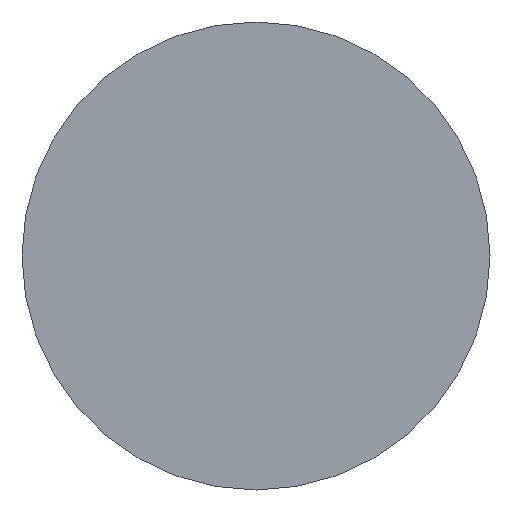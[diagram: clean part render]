
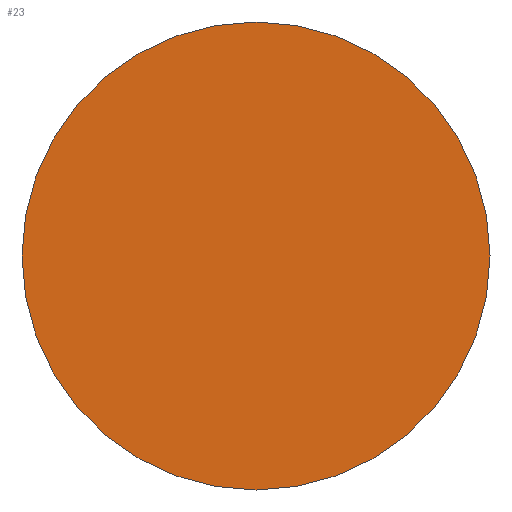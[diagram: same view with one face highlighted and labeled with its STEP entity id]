
A CAD part, left-side view. The second image highlights one B-rep face of the part: STEP entity #23.
In plain terms, the highlighted planar face has unit normal (-1, 0, 0).
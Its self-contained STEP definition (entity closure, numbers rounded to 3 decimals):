
#6 = AXIS2_PLACEMENT_3D ( 'NONE', #59, #43, #136 ) ;
#23 = ADVANCED_FACE ( 'NONE', ( #121 ), #169, .T. ) ;
#24 = ORIENTED_EDGE ( 'NONE', *, *, #212, .F. ) ;
#37 = VERTEX_POINT ( 'NONE', #244 ) ;
#43 = DIRECTION ( 'NONE',  ( -1., 0., 0. ) ) ;
#48 = CARTESIAN_POINT ( 'NONE',  ( 0., 6., 0. ) ) ;
#57 = CIRCLE ( 'NONE', #139, 6. ) ;
#59 = CARTESIAN_POINT ( 'NONE',  ( 0., 0., 0. ) ) ;
#82 = DIRECTION ( 'NONE',  ( 1., 0., 0. ) ) ;
#117 = CIRCLE ( 'NONE', #200, 6. ) ;
#121 = FACE_OUTER_BOUND ( 'NONE', #242, .T. ) ;
#129 = DIRECTION ( 'NONE',  ( 0., 1., 0. ) ) ;
#136 = DIRECTION ( 'NONE',  ( 0., -1., 0. ) ) ;
#139 = AXIS2_PLACEMENT_3D ( 'NONE', #199, #180, #184 ) ;
#148 = CARTESIAN_POINT ( 'NONE',  ( 0., 0., 0. ) ) ;
#162 = VERTEX_POINT ( 'NONE', #48 ) ;
#169 = PLANE ( 'NONE',  #6 ) ;
#180 = DIRECTION ( 'NONE',  ( 1., 0., 0. ) ) ;
#184 = DIRECTION ( 'NONE',  ( 0., 1., 0. ) ) ;
#199 = CARTESIAN_POINT ( 'NONE',  ( 0., 0., 0. ) ) ;
#200 = AXIS2_PLACEMENT_3D ( 'NONE', #148, #82, #129 ) ;
#212 = EDGE_CURVE ( 'NONE', #162, #37, #57, .T. ) ;
#242 = EDGE_LOOP ( 'NONE', ( #24, #265 ) ) ;
#244 = CARTESIAN_POINT ( 'NONE',  ( 0., -6., 0. ) ) ;
#248 = EDGE_CURVE ( 'NONE', #37, #162, #117, .T. ) ;
#265 = ORIENTED_EDGE ( 'NONE', *, *, #248, .F. ) ;
